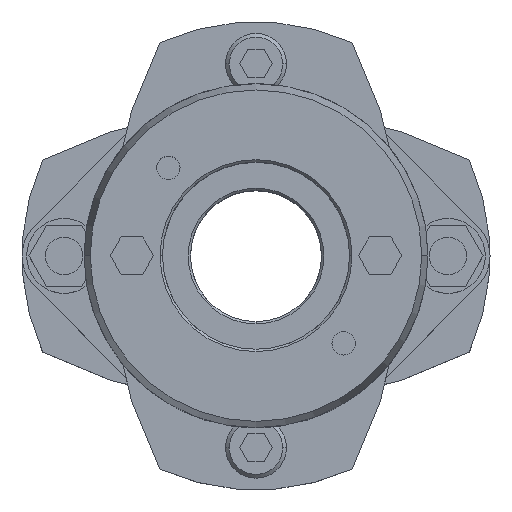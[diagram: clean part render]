
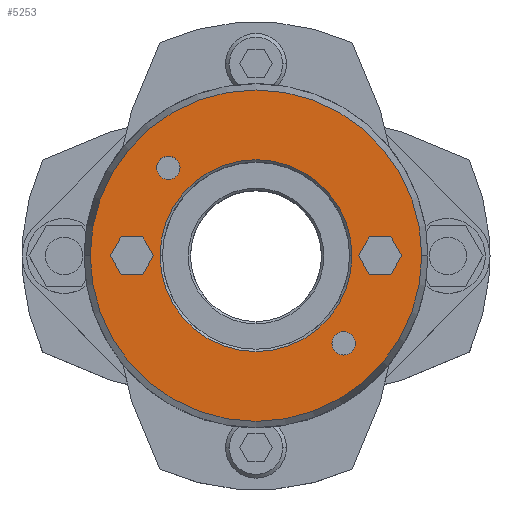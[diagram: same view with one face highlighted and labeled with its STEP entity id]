
A CAD part, top view. The second image highlights one B-rep face of the part: STEP entity #5253.
In plain terms, the highlighted planar face has unit normal (0, 0, 1).
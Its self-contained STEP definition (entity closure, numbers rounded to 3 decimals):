
#857=CARTESIAN_POINT('',(-20.5,0.,42.0));
#858=VERTEX_POINT('',#857);
#874=CARTESIAN_POINT('',(20.5,0.,42.0));
#875=VERTEX_POINT('',#874);
#882=CARTESIAN_POINT('',(0.,0.,42.0));
#883=DIRECTION('',(0.0,0.0,1.0));
#884=DIRECTION('',(-1.0,0.0,0.0));
#885=AXIS2_PLACEMENT_3D('',#882,#883,#884);
#886=CIRCLE('',#885,20.5);
#887=EDGE_CURVE('',#875,#858,#886,.T.);
#1003=CARTESIAN_POINT('',(35.41,0.,42.0));
#1004=VERTEX_POINT('',#1003);
#1013=CARTESIAN_POINT('',(-35.41,0.,42.0));
#1014=VERTEX_POINT('',#1013);
#1015=CARTESIAN_POINT('',(0.,0.,42.0));
#1016=DIRECTION('',(0.0,0.0,-1.0));
#1017=DIRECTION('',(1.0,0.0,0.0));
#1018=AXIS2_PLACEMENT_3D('',#1015,#1016,#1017);
#1019=CIRCLE('',#1018,35.41);
#1020=EDGE_CURVE('',#1004,#1014,#1019,.T.);
#1189=CARTESIAN_POINT('',(-21.238,18.738,42.0));
#1190=VERTEX_POINT('',#1189);
#1206=CARTESIAN_POINT('',(-16.238,18.738,42.0));
#1207=VERTEX_POINT('',#1206);
#1214=CARTESIAN_POINT('',(-18.738,18.738,42.0));
#1215=DIRECTION('',(0.0,0.0,-1.0));
#1216=DIRECTION('',(-1.0,0.0,0.0));
#1217=AXIS2_PLACEMENT_3D('',#1214,#1215,#1216);
#1218=CIRCLE('',#1217,2.5);
#1219=EDGE_CURVE('',#1190,#1207,#1218,.T.);
#1231=CARTESIAN_POINT('',(16.238,-18.738,42.0));
#1232=VERTEX_POINT('',#1231);
#1248=CARTESIAN_POINT('',(21.238,-18.738,42.0));
#1249=VERTEX_POINT('',#1248);
#1256=CARTESIAN_POINT('',(18.738,-18.738,42.0));
#1257=DIRECTION('',(0.0,0.0,-1.0));
#1258=DIRECTION('',(-1.0,0.0,0.0));
#1259=AXIS2_PLACEMENT_3D('',#1256,#1257,#1258);
#1260=CIRCLE('',#1259,2.5);
#1261=EDGE_CURVE('',#1232,#1249,#1260,.T.);
#4379=CARTESIAN_POINT('',(21.881,0.,42.0));
#4380=VERTEX_POINT('',#4379);
#4387=CARTESIAN_POINT('',(24.191,-4.,42.0));
#4388=VERTEX_POINT('',#4387);
#4389=CARTESIAN_POINT('',(24.191,-4.,42.0));
#4390=DIRECTION('',(-0.5,0.866,0.0));
#4391=VECTOR('',#4390,4.619);
#4392=LINE('',#4389,#4391);
#4393=EDGE_CURVE('',#4388,#4380,#4392,.T.);
#4417=CARTESIAN_POINT('',(24.191,4.,42.0));
#4418=VERTEX_POINT('',#4417);
#4425=CARTESIAN_POINT('',(21.881,0.,42.0));
#4426=DIRECTION('',(0.5,0.866,0.0));
#4427=VECTOR('',#4426,4.619);
#4428=LINE('',#4425,#4427);
#4429=EDGE_CURVE('',#4380,#4418,#4428,.T.);
#4448=CARTESIAN_POINT('',(28.809,4.,42.0));
#4449=VERTEX_POINT('',#4448);
#4456=CARTESIAN_POINT('',(24.191,4.,42.0));
#4457=DIRECTION('',(1.0,0.0,0.0));
#4458=VECTOR('',#4457,4.619);
#4459=LINE('',#4456,#4458);
#4460=EDGE_CURVE('',#4418,#4449,#4459,.T.);
#4479=CARTESIAN_POINT('',(31.119,0.,42.0));
#4480=VERTEX_POINT('',#4479);
#4487=CARTESIAN_POINT('',(28.809,4.,42.0));
#4488=DIRECTION('',(0.5,-0.866,0.0));
#4489=VECTOR('',#4488,4.619);
#4490=LINE('',#4487,#4489);
#4491=EDGE_CURVE('',#4449,#4480,#4490,.T.);
#4510=CARTESIAN_POINT('',(28.809,-4.,42.0));
#4511=VERTEX_POINT('',#4510);
#4518=CARTESIAN_POINT('',(31.119,0.,42.0));
#4519=DIRECTION('',(-0.5,-0.866,0.0));
#4520=VECTOR('',#4519,4.619);
#4521=LINE('',#4518,#4520);
#4522=EDGE_CURVE('',#4480,#4511,#4521,.T.);
#4540=CARTESIAN_POINT('',(28.809,-4.,42.0));
#4541=DIRECTION('',(-1.0,0.0,0.0));
#4542=VECTOR('',#4541,4.619);
#4543=LINE('',#4540,#4542);
#4544=EDGE_CURVE('',#4511,#4388,#4543,.T.);
#4579=CARTESIAN_POINT('',(-31.119,0.,42.0));
#4580=VERTEX_POINT('',#4579);
#4587=CARTESIAN_POINT('',(-28.809,-4.,42.0));
#4588=VERTEX_POINT('',#4587);
#4589=CARTESIAN_POINT('',(-28.809,-4.,42.0));
#4590=DIRECTION('',(-0.5,0.866,0.0));
#4591=VECTOR('',#4590,4.619);
#4592=LINE('',#4589,#4591);
#4593=EDGE_CURVE('',#4588,#4580,#4592,.T.);
#4617=CARTESIAN_POINT('',(-28.809,4.,42.0));
#4618=VERTEX_POINT('',#4617);
#4625=CARTESIAN_POINT('',(-31.119,0.,42.0));
#4626=DIRECTION('',(0.5,0.866,0.0));
#4627=VECTOR('',#4626,4.619);
#4628=LINE('',#4625,#4627);
#4629=EDGE_CURVE('',#4580,#4618,#4628,.T.);
#4648=CARTESIAN_POINT('',(-24.191,4.,42.0));
#4649=VERTEX_POINT('',#4648);
#4656=CARTESIAN_POINT('',(-28.809,4.,42.0));
#4657=DIRECTION('',(1.0,0.0,0.0));
#4658=VECTOR('',#4657,4.619);
#4659=LINE('',#4656,#4658);
#4660=EDGE_CURVE('',#4618,#4649,#4659,.T.);
#4679=CARTESIAN_POINT('',(-21.881,0.,42.0));
#4680=VERTEX_POINT('',#4679);
#4687=CARTESIAN_POINT('',(-24.191,4.,42.0));
#4688=DIRECTION('',(0.5,-0.866,0.0));
#4689=VECTOR('',#4688,4.619);
#4690=LINE('',#4687,#4689);
#4691=EDGE_CURVE('',#4649,#4680,#4690,.T.);
#4710=CARTESIAN_POINT('',(-24.191,-4.,42.0));
#4711=VERTEX_POINT('',#4710);
#4718=CARTESIAN_POINT('',(-21.881,0.,42.0));
#4719=DIRECTION('',(-0.5,-0.866,0.0));
#4720=VECTOR('',#4719,4.619);
#4721=LINE('',#4718,#4720);
#4722=EDGE_CURVE('',#4680,#4711,#4721,.T.);
#4740=CARTESIAN_POINT('',(-24.191,-4.,42.0));
#4741=DIRECTION('',(-1.0,0.0,0.0));
#4742=VECTOR('',#4741,4.619);
#4743=LINE('',#4740,#4742);
#4744=EDGE_CURVE('',#4711,#4588,#4743,.T.);
#4770=CARTESIAN_POINT('',(18.738,-18.738,42.0));
#4771=DIRECTION('',(0.0,0.0,-1.0));
#4772=DIRECTION('',(-1.0,0.0,0.0));
#4773=AXIS2_PLACEMENT_3D('',#4770,#4771,#4772);
#4774=CIRCLE('',#4773,2.5);
#4775=EDGE_CURVE('',#1249,#1232,#4774,.T.);
#4804=CARTESIAN_POINT('',(-18.738,18.738,42.0));
#4805=DIRECTION('',(0.0,0.0,-1.0));
#4806=DIRECTION('',(-1.0,0.0,0.0));
#4807=AXIS2_PLACEMENT_3D('',#4804,#4805,#4806);
#4808=CIRCLE('',#4807,2.5);
#4809=EDGE_CURVE('',#1207,#1190,#4808,.T.);
#5200=CARTESIAN_POINT('',(0.,0.,42.0));
#5201=DIRECTION('',(0.0,0.0,-1.0));
#5202=DIRECTION('',(1.0,0.0,0.0));
#5203=AXIS2_PLACEMENT_3D('',#5200,#5201,#5202);
#5204=CIRCLE('',#5203,35.41);
#5205=EDGE_CURVE('',#1014,#1004,#5204,.T.);
#5210=CARTESIAN_POINT('',(-3.341,0.,42.0));
#5211=DIRECTION('',(0.0,0.0,1.0));
#5212=DIRECTION('',(-1.0,0.0,0.0));
#5213=AXIS2_PLACEMENT_3D('',#5210,#5211,#5212);
#5214=PLANE('',#5213);
#5215=ORIENTED_EDGE('',*,*,#5205,.F.);
#5216=ORIENTED_EDGE('',*,*,#1020,.F.);
#5217=EDGE_LOOP('',(#5215,#5216));
#5218=FACE_OUTER_BOUND('',#5217,.T.);
#5219=ORIENTED_EDGE('',*,*,#4393,.T.);
#5220=ORIENTED_EDGE('',*,*,#4429,.T.);
#5221=ORIENTED_EDGE('',*,*,#4460,.T.);
#5222=ORIENTED_EDGE('',*,*,#4491,.T.);
#5223=ORIENTED_EDGE('',*,*,#4522,.T.);
#5224=ORIENTED_EDGE('',*,*,#4544,.T.);
#5225=EDGE_LOOP('',(#5219,#5220,#5221,#5222,#5223,#5224));
#5226=FACE_BOUND('',#5225,.T.);
#5227=ORIENTED_EDGE('',*,*,#4593,.T.);
#5228=ORIENTED_EDGE('',*,*,#4629,.T.);
#5229=ORIENTED_EDGE('',*,*,#4660,.T.);
#5230=ORIENTED_EDGE('',*,*,#4691,.T.);
#5231=ORIENTED_EDGE('',*,*,#4722,.T.);
#5232=ORIENTED_EDGE('',*,*,#4744,.T.);
#5233=EDGE_LOOP('',(#5227,#5228,#5229,#5230,#5231,#5232));
#5234=FACE_BOUND('',#5233,.T.);
#5235=ORIENTED_EDGE('',*,*,#1261,.T.);
#5236=ORIENTED_EDGE('',*,*,#4775,.T.);
#5237=EDGE_LOOP('',(#5235,#5236));
#5238=FACE_BOUND('',#5237,.T.);
#5239=ORIENTED_EDGE('',*,*,#1219,.T.);
#5240=ORIENTED_EDGE('',*,*,#4809,.T.);
#5241=EDGE_LOOP('',(#5239,#5240));
#5242=FACE_BOUND('',#5241,.T.);
#5243=ORIENTED_EDGE('',*,*,#887,.F.);
#5244=CARTESIAN_POINT('',(0.,0.,42.0));
#5245=DIRECTION('',(0.0,0.0,1.0));
#5246=DIRECTION('',(-1.0,0.0,0.0));
#5247=AXIS2_PLACEMENT_3D('',#5244,#5245,#5246);
#5248=CIRCLE('',#5247,20.5);
#5249=EDGE_CURVE('',#858,#875,#5248,.T.);
#5250=ORIENTED_EDGE('',*,*,#5249,.F.);
#5251=EDGE_LOOP('',(#5243,#5250));
#5252=FACE_BOUND('',#5251,.T.);
#5253=ADVANCED_FACE('',(#5218,#5226,#5234,#5238,#5242,#5252),#5214,.T.);
